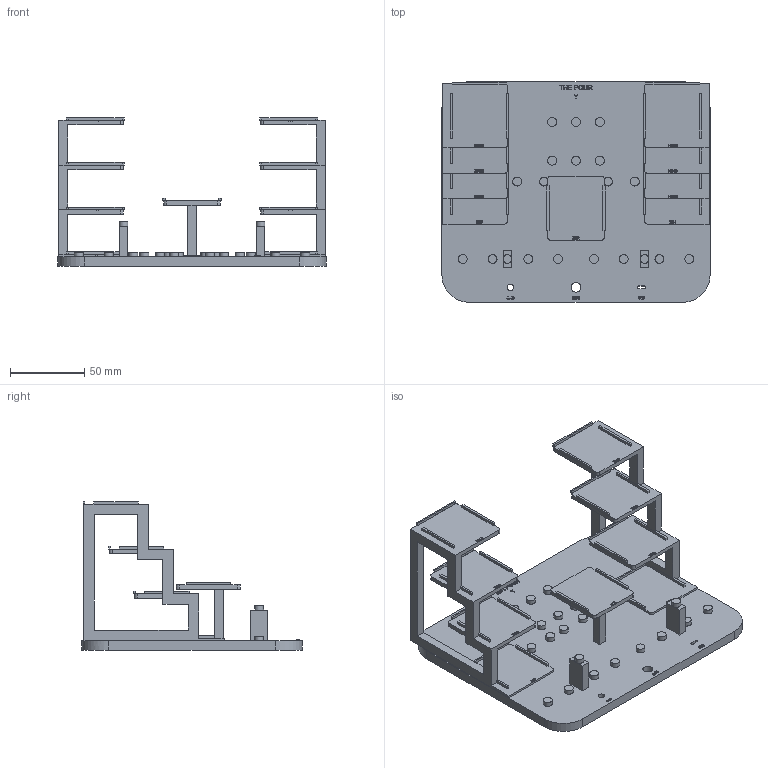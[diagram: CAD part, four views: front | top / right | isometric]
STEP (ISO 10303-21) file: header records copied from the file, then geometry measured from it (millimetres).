
FILE_DESCRIPTION(('Open CASCADE Model'),'2;1');
FILE_NAME('Open CASCADE Shape Model','1970-01-01T00:00:00',('Author'),( 'Open CASCADE'),'Open CASCADE STEP processor 7.8','Open CASCADE 7.8' ,'Unknown');
FILE_SCHEMA(('AUTOMOTIVE_DESIGN { 1 0 10303 214 1 1 1 1 }'));
Length unit declared in the file: millimetre
Products named in the file (2): Open CASCADE STEP translator 7.8 1; P cascade carrier
Assembly tree (1 placements, depth 2):
  Open CASCADE STEP translator 7.8 1
    P cascade carrier
Bounding box: 180 x 148 x 99.8 mm (x, y, z)
Volume: 246907.9 mm3; surface area: 104263 mm2
Topology: 1 solids, 1 shells, 1346 faces, 3728 edges, 2482 vertices
Faces by surface type: plane 651, extrusion 641, cylinder 54
Full cylindrical faces by diameter (mm): 4.4 x1, 6 x22, 6.65 x1
Entity records: 100761 total; most frequent: CARTESIAN_POINT 33591, DIRECTION 9129, ORIENTED_EDGE 7456, PCURVE 7456, DEFINITIONAL_REPRESENTATION 7456, VECTOR 7376, LINE 6735, B_SPLINE_CURVE_WITH_KNOTS 4846
